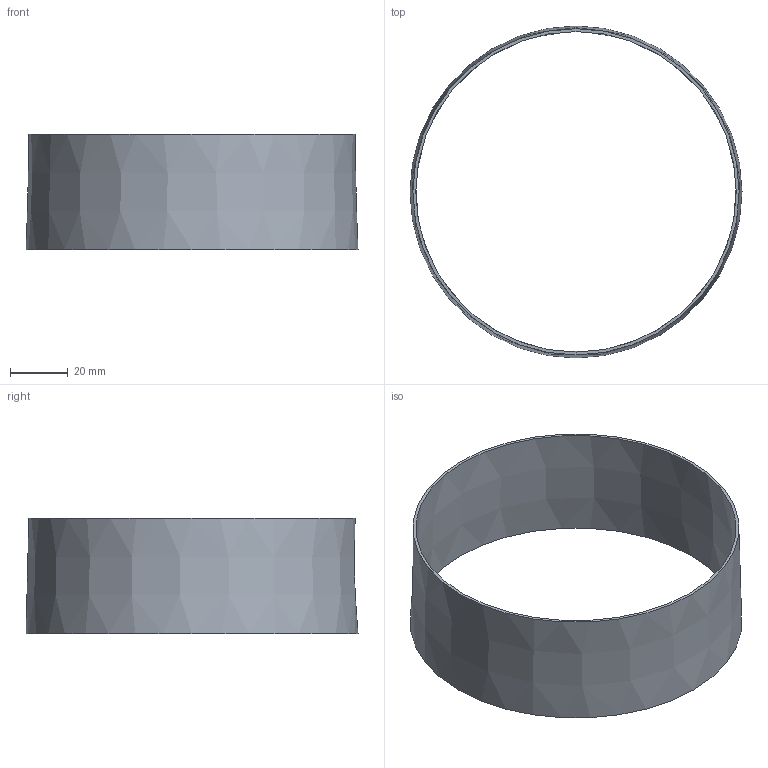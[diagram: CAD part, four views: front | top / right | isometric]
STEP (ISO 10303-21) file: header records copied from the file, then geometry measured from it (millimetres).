
FILE_DESCRIPTION( ( 'STEP AP214' ), '1' );
FILE_NAME( 'C:/Users/ilukic/Documents/ex/gebaudeentwasserung/pe/Geberit PE support ring/359462.stp', '2020-03-26T18:41:23', ( '' ), ( '' ), ' ', 'PARTsolutions', ' ' );
FILE_SCHEMA( ( 'AUTOMOTIVE_DESIGN { 1 0 10303 214 1 1 1 1 }' ) );
Length unit declared in the file: millimetre
Products named in the file (1): _359462
Bounding box: 115.2 x 115.2 x 40 mm (x, y, z)
Volume: 14229.7 mm3; surface area: 29170.9 mm2
Topology: 1 solids, 1 shells, 4 faces, 6 edges, 4 vertices
Faces by surface type: cone 2, plane 2
Entity records: 136 total; most frequent: DIRECTION 18, CARTESIAN_POINT 13, AXIS2_PLACEMENT_3D 9, EDGE_LOOP 8, ORIENTED_EDGE 8, STYLED_ITEM 4, PRESENTATION_STYLE_ASSIGNMENT 4, ADVANCED_FACE 4
